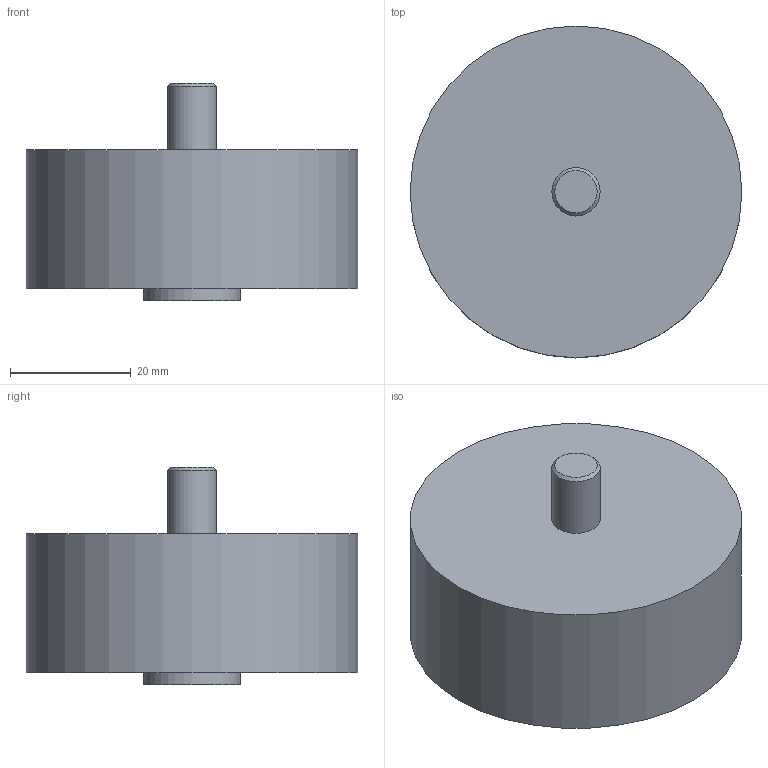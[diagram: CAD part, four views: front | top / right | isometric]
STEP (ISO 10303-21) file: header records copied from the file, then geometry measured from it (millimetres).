
FILE_DESCRIPTION(/* description */ (''),/* implementation_level */ '2;1');
FILE_NAME(/* name */ 'P60-HV Diode SI-A.stp',/* time_stamp */ '2022-02-21T11:05:25+01:00',/* author */ (''),/* organization */ (''),/* preprocessor_version */ 'ST-DEVELOPER v14',/* originating_system */ 'SIEMENS PLM Software NX 8.0',/* authorisation */ '');
FILE_SCHEMA (('AUTOMOTIVE_DESIGN { 1 0 10303 214 3 1 1 1 }'));
Length unit declared in the file: millimetre
Products named in the file (1): P60-HV Diode SI-A_060001-06290 body
Bounding box: 55 x 55 x 36 mm (x, y, z)
Volume: 54994.5 mm3; surface area: 9430.6 mm2
Topology: 1 solids, 1 shells, 10 faces, 18 edges, 12 vertices
Faces by surface type: plane 4, cylinder 4, cone 2
Full cylindrical faces by diameter (mm): 6.985 x1, 8 x1, 16 x1, 55 x1
Entity records: 230 total; most frequent: DIRECTION 40, CARTESIAN_POINT 30, AXIS2_PLACEMENT_3D 20, FACE_BOUND 18, EDGE_LOOP 18, ORIENTED_EDGE 18, ADVANCED_FACE 10, VERTEX_POINT 10
